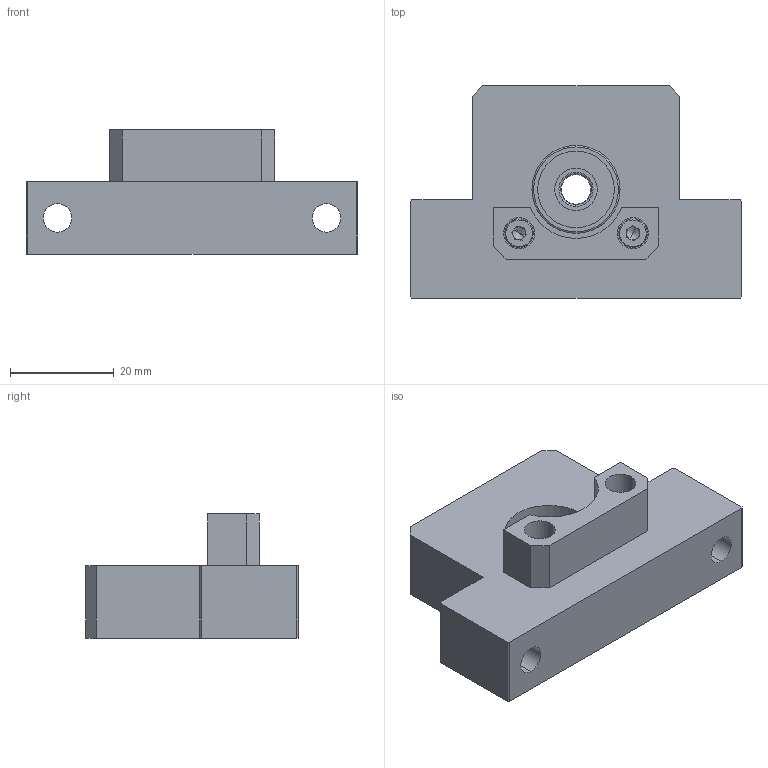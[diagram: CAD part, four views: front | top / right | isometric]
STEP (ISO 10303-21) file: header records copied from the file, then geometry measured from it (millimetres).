
FILE_DESCRIPTION (( 'STEP AP214' ), '1' );
FILE_NAME ('F-SBU-8-D.STEP', '2023-04-10T07:37:19', ( '' ), ( '' ), 'SwSTEP 2.0', 'SolidWorks 2021', '' );
FILE_SCHEMA (( 'AUTOMOTIVE_DESIGN' ));
Length unit declared in the file: millimetre
Products named in the file (11): F-SBU-8-D; F-SBU-8-D BODY; 606ZZ Shield2; 606ZZ Inner Ring; 606ZZ Shield1; 606ZZ Ball; STWN6; 3-8; 606ZZ; 606ZZ Outer Ring; F-SBU-8 DAMPER
Assembly tree (18 placements, depth 3):
  F-SBU-8-D
    F-SBU-8-D BODY
    606ZZ
      606ZZ Shield2
      606ZZ Ball  x8
      606ZZ Shield1
      606ZZ Inner Ring
      606ZZ Outer Ring
    STWN6
    F-SBU-8 DAMPER
    3-8  x2
Bounding box: 64 x 41 x 24 mm (x, y, z)
Volume: 28090 mm3; surface area: 12065.3 mm2
Topology: 17 solids, 17 shells, 201 faces, 483 edges, 304 vertices
Faces by surface type: plane 83, cylinder 64, cone 20, torus 18, sphere 16
Entity records: 5113 total; most frequent: DIRECTION 893, CARTESIAN_POINT 780, ORIENTED_EDGE 730, EDGE_CURVE 365, AXIS2_PLACEMENT_3D 346, VERTEX_POINT 233, VECTOR 201, LINE 201
